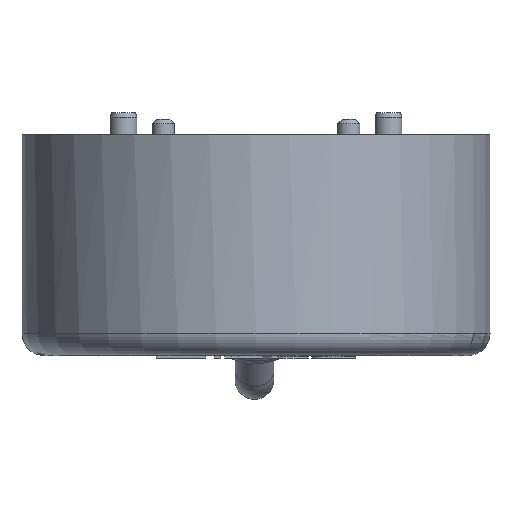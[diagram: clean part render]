
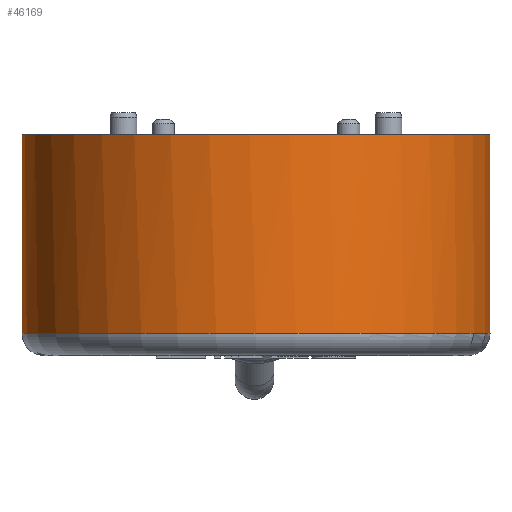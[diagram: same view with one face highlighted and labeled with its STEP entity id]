
A CAD part, left-side view. The second image highlights one B-rep face of the part: STEP entity #46169.
In plain terms, the highlighted cylindrical face has radius 26.5 mm (diameter 53 mm), a full revolution.
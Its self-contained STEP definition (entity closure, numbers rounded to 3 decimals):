
#207=ELLIPSE('',#61533,37.477,26.5);
#2344=LINE('',#81427,#7857);
#2346=LINE('',#81438,#7859);
#7857=VECTOR('',#68210,1000.);
#7859=VECTOR('',#68214,1000.);
#17589=ORIENTED_EDGE('',*,*,#28973,.F.);
#17590=ORIENTED_EDGE('',*,*,#28970,.T.);
#17591=ORIENTED_EDGE('',*,*,#28955,.T.);
#17592=ORIENTED_EDGE('',*,*,#28974,.F.);
#17593=ORIENTED_EDGE('',*,*,#28958,.F.);
#28955=EDGE_CURVE('',#34869,#34871,#2344,.T.);
#28958=EDGE_CURVE('',#34874,#34875,#2346,.T.);
#28970=EDGE_CURVE('',#34874,#34869,#38004,.T.);
#28973=EDGE_CURVE('',#34883,#34883,#38007,.T.);
#28974=EDGE_CURVE('',#34875,#34871,#207,.T.);
#34869=VERTEX_POINT('',#81422);
#34871=VERTEX_POINT('',#81426);
#34874=VERTEX_POINT('',#81437);
#34875=VERTEX_POINT('',#81439);
#34883=VERTEX_POINT('',#81467);
#38004=CIRCLE('',#61527,26.5);
#38007=CIRCLE('',#61531,26.5);
#39707=EDGE_LOOP('',(#17589));
#39708=EDGE_LOOP('',(#17590,#17591,#17592,#17593));
#42764=FACE_BOUND('',#39707,.T.);
#42765=FACE_BOUND('',#39708,.T.);
#44952=CYLINDRICAL_SURFACE('',#61532,26.5);
#46169=ADVANCED_FACE('',(#42764,#42765),#44952,.T.);
#61527=AXIS2_PLACEMENT_3D('',#81461,#68234,#68235);
#61531=AXIS2_PLACEMENT_3D('',#81466,#68242,#68243);
#61532=AXIS2_PLACEMENT_3D('',#81468,#68244,#68245);
#61533=AXIS2_PLACEMENT_3D('',#81469,#68246,#68247);
#68210=DIRECTION('',(0.,0.,1.));
#68214=DIRECTION('',(0.,0.,1.));
#68234=DIRECTION('',(0.,0.,1.));
#68235=DIRECTION('',(-1.,0.,0.));
#68242=DIRECTION('',(0.,0.,1.));
#68243=DIRECTION('',(1.,0.,0.));
#68244=DIRECTION('',(0.,0.,1.));
#68245=DIRECTION('',(-1.,0.,0.));
#68246=DIRECTION('',(0.707,0.,-0.707));
#68247=DIRECTION('',(0.707,0.,0.707));
#81422=CARTESIAN_POINT('',(55.709,30.222,-20.));
#81426=CARTESIAN_POINT('',(55.709,30.222,-13.289));
#81427=CARTESIAN_POINT('',(55.709,30.222,-22.5));
#81437=CARTESIAN_POINT('',(55.709,42.222,-20.));
#81438=CARTESIAN_POINT('',(55.709,42.222,-22.5));
#81439=CARTESIAN_POINT('',(55.709,42.222,-13.289));
#81461=CARTESIAN_POINT('',(29.897,36.222,-20.));
#81466=CARTESIAN_POINT('',(29.897,36.222,2.5));
#81467=CARTESIAN_POINT('',(56.397,36.222,2.5));
#81468=CARTESIAN_POINT('',(29.897,36.222,-22.5));
#81469=CARTESIAN_POINT('',(29.897,36.222,-39.101));
